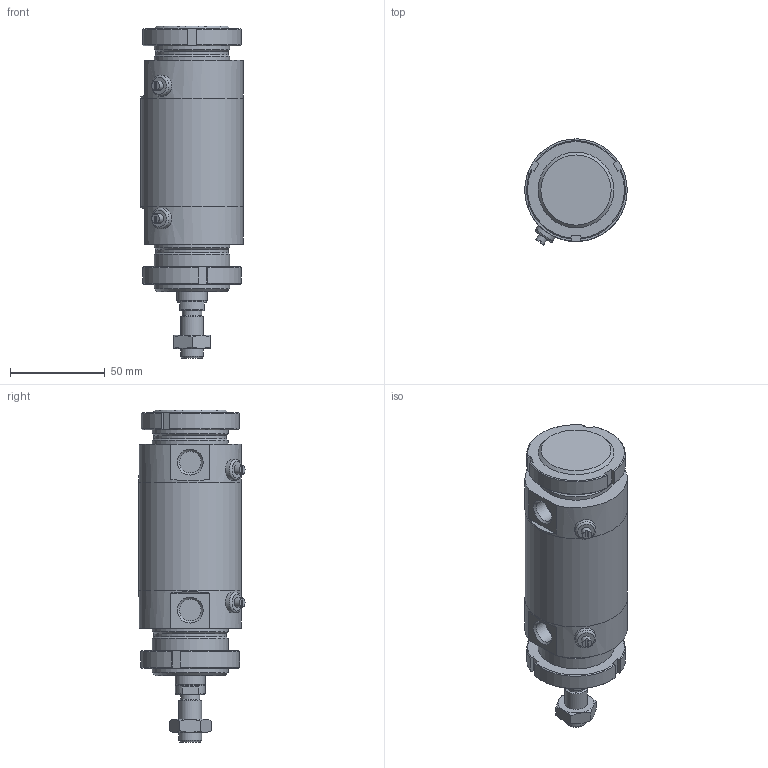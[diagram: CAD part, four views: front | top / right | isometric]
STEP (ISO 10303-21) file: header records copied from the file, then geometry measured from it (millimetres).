
FILE_DESCRIPTION(/* description */ (''),/* implementation_level */ '2;1');
FILE_NAME(/* name */ 'I:\Area Tecnica\Documenti\A-Manieri\_Inventor\12X\12X#C_###_####_#_#\12XBC_050_0015_#_#.stp',/* time_stamp */ '2015-04-28T15:43:27+02:00',/* author */ ('maniean1'),/* organization */ ('Pneumax S.p.A.'),/* preprocessor_version */ 'ST-DEVELOPER v15.2',/* originating_system */ 'Autodesk Inventor 2014',/* authorisation */ '');
FILE_SCHEMA (('AUTOMOTIVE_DESIGN { 1 0 10303 214 3 1 1 }'));
Length unit declared in the file: millimetre
Products named in the file (7): C1250_619-0015; 12X50_606; S12X50_0015; 12X_50_11; 12X50_621; G12X_050_05; 12XBC_050_0015_#_#
Bounding box: 54 x 55.88 x 175 mm (x, y, z)
Volume: 270049.5 mm3; surface area: 67678.6 mm2
Topology: 7 solids, 7 shells, 124 faces, 282 edges, 182 vertices
Faces by surface type: plane 64, cylinder 31, cone 27, torus 2
Full cylindrical faces by diameter (mm): 5 x2, 10.2 x1, 11 x2, 11.4 x2, 12 x2, 14 x1, 15.6 x1, 16 x1, 38.2 x2, 40 x6, 50 x2, 54 x3
Entity records: 2755 total; most frequent: CARTESIAN_POINT 553, DIRECTION 462, ORIENTED_EDGE 356, AXIS2_PLACEMENT_3D 197, EDGE_CURVE 178, EDGE_LOOP 160, VERTEX_POINT 136, ADVANCED_FACE 103
